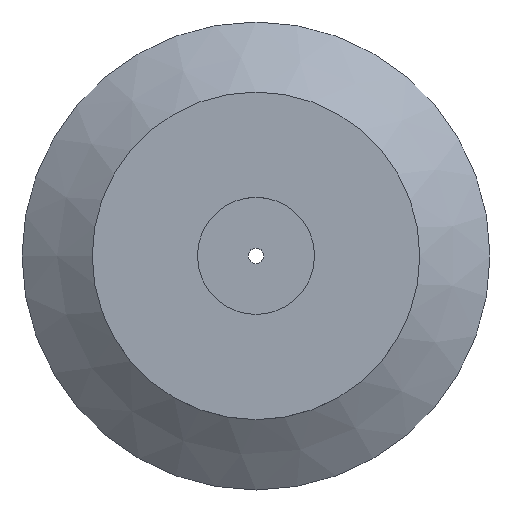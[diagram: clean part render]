
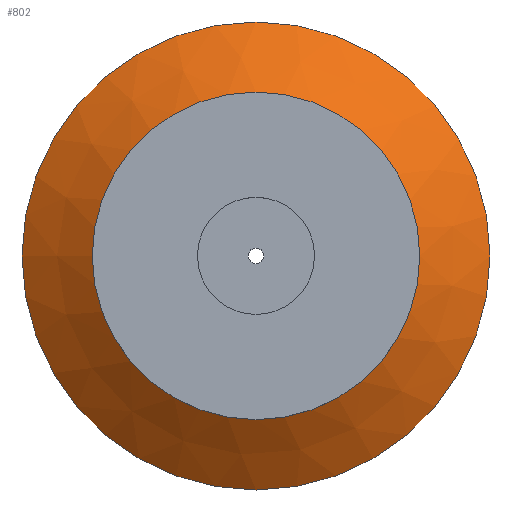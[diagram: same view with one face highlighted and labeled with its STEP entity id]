
A CAD part, top view. The second image highlights one B-rep face of the part: STEP entity #802.
In plain terms, the highlighted conical face has half-angle 54.229 degrees and reference radius 15 mm.
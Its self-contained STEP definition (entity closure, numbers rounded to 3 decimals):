
#802 = ADVANCED_FACE( '', ( #1769, #1770 ), #1771, .T. );
#1769 = FACE_BOUND( '', #2944, .T. );
#1770 = FACE_OUTER_BOUND( '', #2945, .T. );
#1771 = CONICAL_SURFACE( '', #2946, 15., 0.946 );
#2944 = EDGE_LOOP( '', ( #5225 ) );
#2945 = EDGE_LOOP( '', ( #5226 ) );
#2946 = AXIS2_PLACEMENT_3D( '', #5227, #5228, #5229 );
#5225 = ORIENTED_EDGE( '', *, *, #7836, .T. );
#5226 = ORIENTED_EDGE( '', *, *, #7837, .F. );
#5227 = CARTESIAN_POINT( '', ( 0., 0., -2.2 ) );
#5228 = DIRECTION( '', ( 0., 0., -1. ) );
#5229 = DIRECTION( '', ( -1., 0., 0. ) );
#7836 = EDGE_CURVE( '', #9735, #9735, #9736, .T. );
#7837 = EDGE_CURVE( '', #9737, #9737, #9738, .T. );
#9735 = VERTEX_POINT( '', #12185 );
#9736 = CIRCLE( '', #12186, 10.5 );
#9737 = VERTEX_POINT( '', #12187 );
#9738 = CIRCLE( '', #12188, 15. );
#12185 = CARTESIAN_POINT( '', ( -10.5, 0., 1.042 ) );
#12186 = AXIS2_PLACEMENT_3D( '', #14060, #14061, #14062 );
#12187 = CARTESIAN_POINT( '', ( -15., 0., -2.2 ) );
#12188 = AXIS2_PLACEMENT_3D( '', #14063, #14064, #14065 );
#14060 = CARTESIAN_POINT( '', ( 0., 0., 1.042 ) );
#14061 = DIRECTION( '', ( 0., 0., -1. ) );
#14062 = DIRECTION( '', ( -1., 0., 0. ) );
#14063 = CARTESIAN_POINT( '', ( 0., 0., -2.2 ) );
#14064 = DIRECTION( '', ( 0., 0., -1. ) );
#14065 = DIRECTION( '', ( -1., 0., 0. ) );
